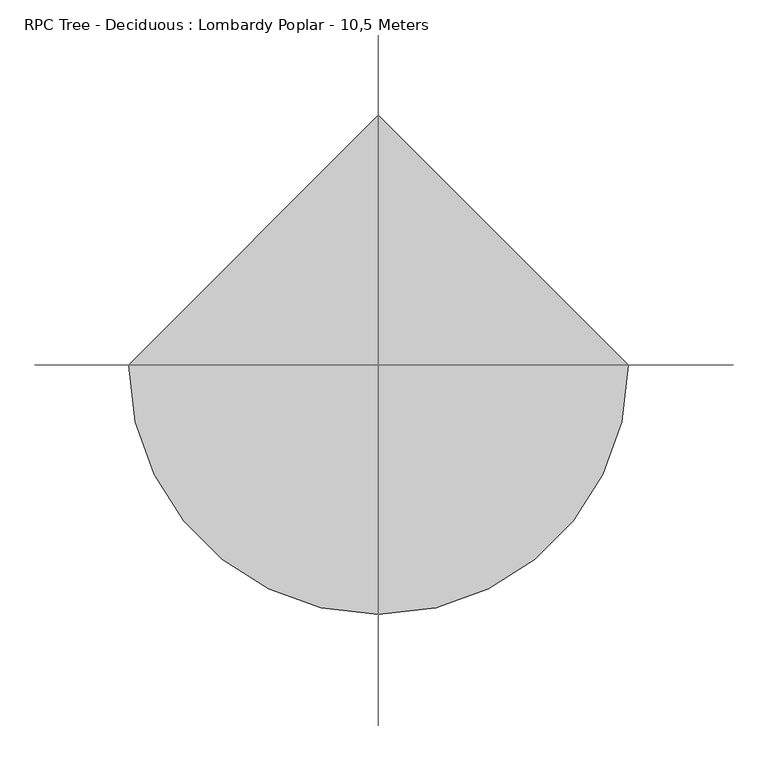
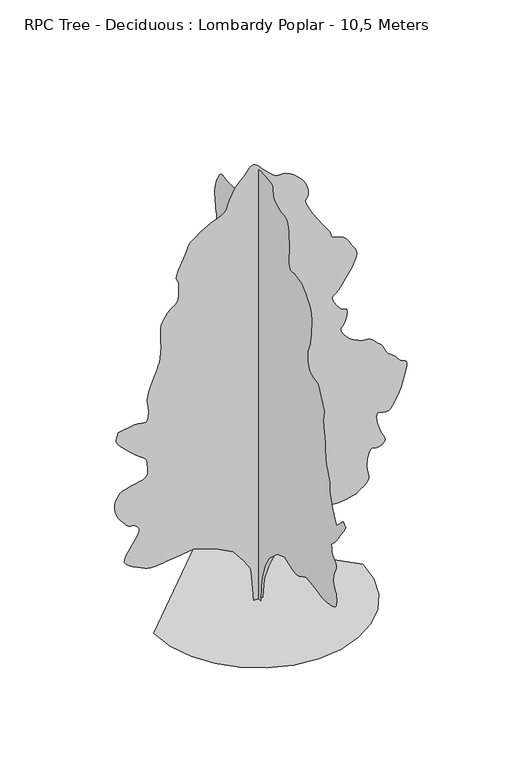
"""IFC4 building model written with IfcOpenShell, lengths in millimetres: geographic element geometry, RPC Tree - Deciduous : Lombardy Poplar - 10,5 Meters."""

from ifc_helpers import new_model, si_unit, origin, place, context, project, spatial, triangles, source, transform, mapped, element, save


def rpc_tree_deciduous_lombardy_poplar_10_5_meters_a89ac7ab(model_context):
    return source(origin(), model_context, "Body", "Tessellation", [
        triangles([(0.000835, 98.0204068, 0.0), (0.000835, -90.285641, 0.0), (0.000835, -105.9778608, 376.6125134), (0.000835, -153.0543205, 627.686832), (0.000835, -278.5908076, 972.9131435), (0.000835, -435.5130607, 1239.6805813), (0.000835, -749.3553503, 1522.1387764), (0.000835, -1047.5067736, 1631.9839611), (0.000835, -1204.4290266, 1569.2159901), (0.000835, -1271.4976799, 1546.0219116), (0.000835, -1337.4703972, 1524.884103), (0.000835, -1401.2447021, 1507.8653744), (0.000835, -1461.7267662, 1497.0241756), (0.000835, -1517.8141857, 1494.4144512), (0.000835, -1568.4131321, 1502.1013367), (0.000835, -1612.4255619, 1522.1387764), (0.000835, -1652.7761513, 1547.6668694), (0.000835, -1693.1289207, 1570.7253456), (0.000835, -1733.4793648, 1591.7252266), (0.000835, -1773.8299541, 1611.0757896), (0.000835, -1814.1805435, 1629.1948872), (0.000835, -1854.533313, 1646.4870003), (0.000835, -1894.8839024, 1663.3701267), (0.000835, -2224.4214912, 1616.2930584), (0.000835, -2281.5588467, 1602.9339901), (0.000835, -2338.5649601, 1590.1240162), (0.000835, -2395.2867886, 1578.4122311), (0.000835, -2451.6148911, 1568.3474384), (0.000835, -2507.3739876, 1560.4768433), (0.000835, -2562.4552185, 1555.3537548), (0.000835, -2616.7271965, 1553.5227619), (0.000835, -2679.8143341, 1555.5812119), (0.000835, -2756.355011, 1562.3078362), (0.000835, -2838.6485344, 1574.5227882), (0.000835, -2919.0389763, 1593.0508724), (0.000835, -2989.804715, 1618.7167477), (0.000835, -3043.2889503, 1652.3430382), (0.000835, -3071.7918617, 1694.7541122), (0.000835, -3082.5106842, 1740.9146667), (0.000835, -3088.2638214, 1785.4280834), (0.000835, -3089.9044189, 1828.5721069), (0.000835, -3088.2638214, 1870.6157616), (0.000835, -3084.1512817, 1911.8369373), (0.000835, -3078.3763435, 1952.5068386), (0.000835, -3071.7918617, 1992.9033554), (0.000835, -3041.8669441, 2026.8970654), (0.000835, -3014.0200974, 2063.0848274), (0.000835, -2990.2639893, 2103.6650539), (0.000835, -2972.6984917, 2150.8319424), (0.000835, -2963.3795837, 2206.7901546), (0.000835, -2964.320224, 2273.7056923), (0.000835, -2977.6420853, 2353.8337955), (0.000835, -3000.9389191, 2433.1086079), (0.000835, -3027.5169479, 2498.121064), (0.000835, -3053.0014389, 2551.8677834), (0.000835, -3072.994986, 2597.3897141), (0.000835, -3083.1013458, 2637.7052765), (0.000835, -3078.9231125, 2675.8113808), (0.000835, -3056.1076447, 2714.7488297), (0.000835, -3022.704451, 2749.9676102), (0.000835, -2990.6796616, 2777.5080803), (0.000835, -2961.4108086, 2801.2205864), (0.000835, -2936.2326942, 2824.9110008), (0.000835, -2916.5673248, 2852.4517616), (0.000835, -2903.7483398, 2887.6702515), (0.000835, -2899.1765259, 2934.4391991), (0.000835, -2896.0267181, 2980.2672157), (0.000835, -2889.3111397, 3012.9483604), (0.000835, -2883.1205292, 3036.5512802), (0.000835, -2881.6110283, 3055.2106064), (0.000835, -2888.8954674, 3073.0606796), (0.000835, -2909.0640038, 3094.1919479), (0.000835, -2946.2515594, 3122.738752), (0.000835, -2998.3576813, 3169.1792313), (0.000835, -3059.542028, 3238.676152), (0.000835, -3128.2512062, 3327.3791679), (0.000835, -3202.9980972, 3431.4600243), (0.000835, -3282.2947105, 3547.0692467), (0.000835, -3364.5882339, 3670.3564888), (0.000835, -3448.4133499, 3797.4937866), (0.000835, -3354.2632828, 3891.6656548), (0.000835, -3228.7229805, 3781.8095695), (0.000835, -3103.1826782, 3640.5847595), (0.000835, -3082.9481575, 3667.75345), (0.000835, -3062.4732445, 3696.5848297), (0.000835, -3041.4076698, 3728.6971138), (0.000835, -3019.5546432, 3765.7532822), (0.000835, -2996.5856964, 3809.3939323), (0.000835, -2972.2389267, 3861.2814629), (0.000835, -2946.2515594, 3923.0343796), (0.000835, -2919.5421432, 3986.2311035), (0.000835, -2893.9265556, 4044.1778572), (0.000835, -2870.4986252, 4101.337159), (0.000835, -2850.3736908, 4162.0401398), (0.000835, -2834.6234894, 4230.7057159), (0.000835, -2824.3860329, 4311.7307121), (0.000835, -2820.7112572, 4409.4898613), (0.000835, -2813.6675011, 4508.36464), (0.000835, -2795.0956696, 4593.2176003), (0.000835, -2768.8455276, 4669.3205132), (0.000835, -2738.7456207, 4741.814344), (0.000835, -2708.6239128, 4815.9923744), (0.000835, -2682.3737709, 4896.9952789), (0.000835, -2663.8019394, 4990.1169205), (0.000835, -2652.1863693, 5074.4234024), (0.000835, -2643.8519943, 5132.3919571), (0.000835, -2638.2738464, 5174.1510361), (0.000835, -2634.8833557, 5209.8947845), (0.000835, -2633.1552635, 5249.728981), (0.000835, -2632.4989082, 5303.8477707), (0.000835, -2632.4114136, 5382.4005341), (0.000835, -2628.9334282, 5462.8351593), (0.000835, -2619.9644989, 5522.4007095), (0.000835, -2607.7146652, 5570.9849533), (0.000835, -2594.3489113, 5618.4756592), (0.000835, -2582.0990776, 5674.759433), (0.000835, -2573.1301483, 5749.681604), (0.000835, -2569.6521629, 5853.1717987), (0.000835, -2574.4428589, 5949.9467056), (0.000835, -2585.008493, 6008.5495239), (0.000835, -2595.5959282, 6044.643251), (0.000835, -2600.3863335, 6073.8682114), (0.000835, -2593.670755, 6111.886821), (0.000835, -2569.6521629, 6174.3399857), (0.000835, -2522.5771294, 6276.8680298), (0.000835, -2468.8961037, 6388.6274872), (0.000835, -2427.5961536, 6471.5770752), (0.000835, -2396.5774075, 6530.5083618), (0.000835, -2373.7837406, 6570.211171), (0.000835, -2357.1805389, 6595.5206726), (0.000835, -2344.6900223, 6611.2051804), (0.000835, -2334.2556301, 6622.0987015), (0.000835, -2270.6651802, 6632.4672546), (0.000835, -2208.8683708, 6644.651976), (0.000835, -2150.6241062, 6660.3800858), (0.000835, -2097.7391075, 6681.4671707), (0.000835, -2051.987685, 6709.7078888), (0.000835, -2015.1611538, 6746.8515518), (0.000835, -1989.0358589, 6794.714328), (0.000835, -1971.6059635, 6847.5861008), (0.000835, -1959.1174816, 6898.8387863), (0.000835, -1950.7437195, 6948.6921387), (0.000835, -1945.6665585, 6997.4734634), (0.000835, -1943.0590141, 7045.4228622), (0.000835, -1942.0965729, 7092.8042725), (0.000835, -1941.9609707, 7139.922908), (0.000835, -1968.7250347, 7187.5229095), (0.000835, -1994.6642944, 7238.1198212), (0.000835, -2018.9564163, 7294.754155), (0.000835, -2040.7789215, 7360.4443314), (0.000835, -2059.3091858, 7438.2320251), (0.000835, -2073.7203701, 7531.090892), (0.000835, -2083.1901409, 7642.0846985), (0.000835, -2092.8434761, 7755.2219788), (0.000835, -2104.6931889, 7855.4530701), (0.000835, -2113.2484806, 7947.1968887), (0.000835, -2113.0188435, 8034.806076), (0.000835, -2098.515659, 8122.6774567), (0.000835, -2064.2485645, 8215.2305283), (0.000835, -2004.7289417, 8316.8400238), (0.000835, -1935.9212231, 8412.6085968), (0.000835, -1875.0739197, 8487.2238098), (0.000835, -1818.6189354, 8544.5365906), (0.000835, -1762.9865753, 8588.4176331), (0.000835, -1704.6110687, 8622.6736816), (0.000835, -1639.9202499, 8651.176593), (0.000835, -1565.3484936, 8677.7546219), (0.000835, -1486.0648155, 8693.8768936), (0.000835, -1411.4471317, 8695.1454208), (0.000835, -1344.2406235, 8691.7549301), (0.000835, -1287.1907627, 8693.8768936), (0.000835, -1243.0427307, 8711.6170898), (0.000835, -1214.5396013, 8755.1702454), (0.000835, -1204.4290266, 8834.6857407), (0.000835, -1206.0761644, 8924.5482788), (0.000835, -1209.9196072, 8998.2013412), (0.000835, -1214.3121443, 9064.4385773), (0.000835, -1217.6043125, 9132.0542175), (0.000835, -1218.1533342, 9209.84133), (0.000835, -1214.3121443, 9306.5505432), (0.000835, -1204.4290266, 9430.9975983), (0.000835, -1190.7965012, 9557.3474442), (0.000835, -1176.0637522, 9655.9815399), (0.000835, -1159.1368784, 9729.9188873), (0.000835, -1138.9156563, 9782.1563965), (0.000835, -1114.3019697, 9815.7345795), (0.000835, -1084.1976299, 9833.6718567), (0.000835, -1047.5067736, 9838.9878113), (0.000835, -995.1249418, 9843.7340332), (0.000835, -924.3485207, 9857.8436371), (0.000835, -843.693342, 9880.9875732), (0.000835, -761.6622299, 9912.9251587), (0.000835, -686.771089, 9953.3494354), (0.000835, -627.5249233, 10002.0429749), (0.000835, -592.4353137, 10058.67789), (0.000835, -579.4875212, 10118.7904999), (0.000835, -575.3246939, 10176.4311676), (0.000835, -571.4353237, 10229.127951), (0.000835, -559.3122265, 10274.4309998), (0.000835, -530.4438214, 10309.8462799), (0.000835, -476.322997, 10332.9018494), (0.000835, -388.435956, 10341.1269287), (0.000835, -282.2964317, 10344.2988281), (0.000835, -181.0989023, 10351.0146973), (0.000835, -87.860798, 10357.1829254), (0.000835, -5.602791, 10358.6932983), (0.000835, 62.6558049, 10351.4297882), (0.000835, 113.8955098, 10331.2612518), (0.000835, 145.0968575, 10294.0518951), (0.000835, 163.8542064, 10251.7893585), (0.000835, 181.7881771, 10215.2799591), (0.000835, 201.9177442, 10178.7717224), (0.000835, 227.263381, 10136.4870941), (0.000835, 260.8436532, 10082.6961914), (0.000835, 305.6785801, 10011.6028564), (0.000835, 364.7869271, 9917.4527893), (0.000835, 430.2542974, 9817.1565857), (0.000835, 492.7029565, 9730.0502747), (0.000835, 552.9553834, 9653.9252701), (0.000835, 611.8362007, 9586.5724045), (0.000835, 670.1657799, 9525.825531), (0.000835, 728.7709963, 9469.4533905), (0.000835, 788.4743288, 9415.2909988), (0.000835, 847.2174002, 9370.5571014), (0.000835, 902.9416878, 9341.7257217), (0.000835, 956.4675631, 9325.5383377), (0.000835, 1008.6240452, 9318.6695709), (0.000835, 1060.2292528, 9317.8382263), (0.000835, 1112.1079176, 9319.7631088), (0.000835, 1165.0868786, 9321.1415131), (0.000835, 1222.1826668, 9325.95401), (0.000835, 1283.6710648, 9336.5196442), (0.000835, 1346.2553261, 9347.0852783), (0.000835, 1406.6455353, 9351.8756836), (0.000835, 1461.5450912, 9345.1598145), (0.000835, 1507.6597183, 9321.1415131), (0.000835, 1541.6993557, 9274.0664795), (0.000835, 1571.0250366, 9215.8787521), (0.000835, 1603.3692833, 9160.1414566), (0.000835, 1635.9892399, 9103.5949081), (0.000835, 1666.1373997, 9042.93582), (0.000835, 1691.0704708, 8974.8609055), (0.000835, 1708.0454521, 8896.0889694), (0.000835, 1714.3125114, 8803.2952148), (0.000835, 1712.4816639, 8707.8109268), (0.000835, 1707.3585754, 8621.6673477), (0.000835, 1699.4901604, 8542.6553101), (0.000835, 1689.4253677, 8468.5865753), (0.000835, 1677.7135826, 8397.2740677), (0.000835, 1664.9036087, 8326.5086197), (0.000835, 1651.5445404, 8254.0804825), (0.000835, 1648.6614315, 8186.2241592), (0.000835, 1663.0726158, 8128.2556046), (0.000835, 1689.0120209, 8076.608757), (0.000835, 1720.7174984, 8027.6966263), (0.000835, 1752.4231213, 7977.9746613), (0.000835, 1778.3625263, 7923.8558716), (0.000835, 1792.7737106, 7861.7747772), (0.000835, 1792.3623985, 7801.5092697), (0.000835, 1779.8718819, 7752.5314453), (0.000835, 1758.5984711, 7710.6624893), (0.000835, 1731.834407, 7671.8125351), (0.000835, 1702.8762909, 7631.869043), (0.000835, 1675.0141834, 7586.7188919), (0.000835, 1651.5445404, 7532.2286133), (0.000835, 1637.9099075, 7469.9725296), (0.000835, 1636.6301891, 7404.9602188), (0.000835, 1646.6029816, 7338.3067291), (0.000835, 1666.7322762, 7271.1073425), (0.000835, 1695.9200294, 7204.4323425), (0.000835, 1733.0703781, 7139.4200317), (0.000835, 1777.0806278, 7077.1639481), (0.000835, 1822.5105583, 7025.8885895), (0.000835, 1865.7442566, 6987.7606842), (0.000835, 1908.4288605, 6954.8824585), (0.000835, 1952.2115078, 6919.2264954), (0.000835, 1998.7396271, 6872.8950211), (0.000835, 2049.6580307, 6807.8827103), (0.000835, 2106.6160366, 6716.2487686), (0.000835, 2166.3652966, 6617.7454788), (0.000835, 2225.2964378, 6535.4522461), (0.000835, 2284.4900631, 6466.305304), (0.000835, 2345.0618019, 6407.352507), (0.000835, 2408.1054829, 6355.5085785), (0.000835, 2474.7149345, 6307.7992813), (0.000835, 2546.0053505, 6261.1620117), (0.000835, 2618.1053101, 6224.3026337), (0.000835, 2686.6394989, 6202.5150101), (0.000835, 2751.8706917, 6187.8804382), (0.000835, 2814.0828827, 6172.4151031), (0.000835, 2873.5609383, 6148.1776291), (0.000835, 2930.5670517, 6107.184201), (0.000835, 2985.3857986, 6041.4713516), (0.000835, 3036.0263123, 5961.0152161), (0.000835, 3079.2512901, 5881.9153931), (0.000835, 3113.4419357, 5805.5502869), (0.000835, 3136.8919579, 5733.3192307), (0.000835, 3148.026162, 5666.5564453), (0.000835, 3145.1388382, 5606.6845184), (0.000835, 3126.6106087, 5555.0161606), (0.000835, 3091.7856995, 5505.3819809), (0.000835, 3044.0764023, 5451.8974548), (0.000835, 2987.8577408, 5396.5101379), (0.000835, 2927.5047386, 5341.1007294), (0.000835, 2867.4360214, 5287.6167847), (0.000835, 2812.0266129, 5237.9820236), (0.000835, 2765.6957199, 5194.1009811), (0.000835, 2722.99571, 5154.485376), (0.000835, 2677.8458496, 5115.4168304), (0.000835, 2633.5052422, 5075.5169403), (0.000835, 2593.2989754, 5033.429393), (0.000835, 2560.508535, 4987.7763657), (0.000835, 2538.3927338, 4937.179454), (0.000835, 2530.2990417, 4880.2608353), (0.000835, 2526.973954, 4820.6077904), (0.000835, 2518.9677567, 4762.311058), (0.000835, 2509.2991608, 4704.8674713), (0.000835, 2501.0304794, 4647.6645676), (0.000835, 2497.1365311, 4590.1988892), (0.000835, 2500.6584091, 4531.9239578), (0.000835, 2514.6148247, 4472.2709129), (0.000835, 2536.1614746, 4414.9366219), (0.000835, 2560.1803574, 4363.377269), (0.000835, 2586.2552193, 4316.6307037), (0.000835, 2613.9706787, 4273.7118118), (0.000835, 2642.9331551, 4233.680825), (0.000835, 2672.726976, 4195.5744301), (0.000835, 2702.9143776, 4158.4307671), (0.000835, 2739.66446, 4164.2713989), (0.000835, 2774.8829498, 4164.9277542), (0.000835, 2807.0830193, 4155.127771), (0.000835, 2834.7766777, 4129.6871727), (0.000835, 2856.411113, 4083.3995911), (0.000835, 2870.4986252, 4011.0153465), (0.000835, 2875.5297134, 3907.3498718), (0.000835, 2875.5297134, 3389.5038643), (0.000835, 2881.3046516, 3236.1603172), (0.000835, 2894.7579002, 3109.9857513), (0.000835, 2910.1142303, 3007.4138145), (0.000835, 2921.6423058, 2924.8796082), (0.000835, 2923.5671883, 2858.8173615), (0.000835, 2910.1142303, 2805.639212), (0.000835, 2875.5297134, 2761.8235725), (0.000835, 2826.1580177, 2737.1707169), (0.000835, 2774.5986649, 2733.6488388), (0.000835, 2724.4174255, 2735.880098), (0.000835, 2679.1800705, 2728.5081642), (0.000835, 2642.4302788, 2696.1769981), (0.000835, 2617.7771324, 2623.464576), (0.000835, 2608.7646011, 2495.0584602), (0.000835, 2614.7145287, 2353.5493652), (0.000835, 2629.4363045, 2246.9089268), (0.000835, 2648.2927116, 2167.7149235), (0.000835, 2666.6020592, 2108.5606853), (0.000835, 2679.6832375, 2062.0325661), (0.000835, 2682.8769379, 2020.7195354), (0.000835, 2671.5238518, 1977.2124527), (0.000835, 2660.367556, 1941.3441479), (0.000835, 2661.0021103, 1922.7699909), (0.000835, 2664.130117, 1913.8035324), (0.000835, 2660.367556, 1906.7575962), (0.000835, 2640.4176109, 1893.9476223), (0.000835, 2594.9395729, 1867.6867252), (0.000835, 2514.6148247, 1820.2901997), (0.000835, 2430.6586121, 1767.9521152), (0.000835, 2371.4212395, 1730.1631428), (0.000835, 2323.143227, 1704.1779556), (0.000835, 2272.1307884, 1687.2510818), (0.000835, 2204.6683365, 1676.6373402), (0.000835, 2106.983456, 1669.591404), (0.000835, 1965.3868664, 1663.3701267), (0.000835, 1813.6358093, 1665.3367218), (0.000835, 1690.9807961, 1681.0276245), (0.000835, 1591.9308826, 1704.9566872), (0.000835, 1511.0000668, 1731.6265709), (0.000835, 1442.6955151, 1755.5534534), (0.000835, 1381.5287544, 1771.2465363), (0.000835, 1322.0091316, 1773.2131313), (0.000835, 1257.8214798, 1764.6578396), (0.000835, 1187.0471661, 1752.8103069), (0.000835, 1110.7822718, 1738.2154129), (0.000835, 1030.124913, 1721.4263214), (0.000835, 946.175386, 1702.987912), (0.000835, 860.0273741, 1683.4534939), (0.000835, 772.7834261, 1663.3701267), (0.000835, 458.9389564, 1412.293737), (0.000835, 270.6348797, 1004.2993092), (0.000835, 145.0968575, 517.8416837), (103.4994238, 0.0004594, 0.0073501), (-100.4981807, 0.0004594, 0.0073501), (-147.5746405, 0.0004176, 564.9253286), (-178.9593163, 0.0004176, 784.6156254), (-335.8813514, 0.0003967, 1035.6899076), (-571.2625145, 0.0003759, 1333.8412582), (-979.2590498, 0.000355, 1553.5316277), (-1481.4098671, 0.000355, 1710.4517006), (-1889.4041496, 0.000355, 1663.376667), (-2124.7876019, 0.000355, 1631.9926815), (-2182.1567745, 0.000355, 1623.8027744), (-2245.5745605, 0.000355, 1614.5145332), (-2313.3650448, 0.000355, 1606.8759007), (-2383.9117561, 0.000355, 1603.6274071), (-2455.5524414, 0.000355, 1607.5168499), (-2526.646067, 0.000355, 1621.287085), (-2595.5520355, 0.000355, 1647.6835842), (-2673.470826, 0.000355, 1684.1929836), (-2765.3675423, 0.000355, 1726.4640953), (-2860.3047707, 0.000355, 1774.5037502), (-2947.2796944, 0.000355, 1828.3052628), (-3015.3107162, 0.0003341, 1887.8706676), (-3053.4171112, 0.0003341, 1953.2002556), (-3050.6169914, 0.0003341, 2024.2962067), (-3010.1264397, 0.0003341, 2107.6069645), (-2949.6202492, 0.0003341, 2204.6465355), (-2879.7515488, 0.0003132, 2307.9838326), (-2811.2612526, 0.0003132, 2410.2492474), (-2754.8455101, 0.0003132, 2503.9834969), (-2721.2237251, 0.0002923, 2581.792701), (-2721.0926285, 0.0002923, 2636.2832703), (-2741.2611649, 0.0002923, 2672.5301857), (-2761.4299919, 0.0002923, 2701.3394737), (-2781.62062, 0.0002923, 2724.0017532), (-2801.7891563, 0.0002923, 2741.6986382), (-2821.9579834, 0.0002923, 2755.6986557), (-2842.1486115, 0.0002923, 2767.2267311), (-2862.3174385, 0.0002923, 2777.5298813), (-2882.6391632, 0.0002923, 2774.4893692), (-2903.7704315, 0.0002923, 2773.5487289), (-2926.5422974, 0.0002923, 2776.6988274), (-2951.8079063, 0.0002923, 2786.0392456), (-2980.3547104, 0.0002923, 2803.6050339), (-3013.0140541, 0.0002923, 2831.45159), (-3050.6169914, 0.0002923, 2871.6796577), (-3094.9137062, 0.0002923, 2924.2889465), (-3143.5857353, 0.0002715, 2987.0484879), (-3191.4479301, 0.0002715, 3058.6013878), (-3233.2511925, 0.0002715, 3137.5701141), (-3263.8103737, 0.0002715, 3222.575972), (-3277.9196869, 0.0002506, 3312.2417198), (-3270.3073608, 0.0002506, 3405.210173), (-3248.038662, 0.0002506, 3489.2974823), (-3220.8042778, 0.0002506, 3555.272525), (-3187.5542725, 0.0002506, 3606.1316299), (-3147.1512154, 0.0002297, 3644.9379822), (-3098.5230789, 0.0002297, 3674.6661095), (-3040.5545242, 0.0002297, 3698.3783249), (-2972.173233, 0.0002297, 3719.0503189), (-2890.9517372, 0.0002297, 3736.2440369), (-2800.9799034, 0.0002297, 3750.9876137), (-2710.7019836, 0.0002297, 3768.4659073), (-2628.6706535, 0.0002297, 3793.9065056), (-2563.3958588, 0.0002297, 3832.5157768), (-2523.3645813, 0.0002297, 3889.5218903), (-2517.0864761, 0.0002297, 3970.1312141), (-2526.4710777, 0.0002088, 4054.3060181), (-2530.6272194, 0.0002088, 4120.9153244), (-2533.9741081, 0.0002088, 4173.5246132), (-2540.8864769, 0.0002088, 4215.6993645), (-2555.73964, 0.0002088, 4251.0274406), (-2582.9740242, 0.0002088, 4283.0525208), (-2626.9425613, 0.0002088, 4315.3618858), (-2700.3549408, 0.0001879, 4368.1461639), (-2803.1672699, 0.0001879, 4451.4021286), (-2920.5045845, 0.0001879, 4553.3395111), (-3037.5794151, 0.0001879, 4662.1238594), (-3139.5606903, 0.000167, 4765.9861244), (-3211.6167572, 0.000167, 4853.0921448), (-3238.938636, 0.000167, 4911.6513611), (-3237.5605225, 0.000167, 4949.7141541), (-3233.7104668, 0.000167, 4983.663826), (-3227.8041412, 0.000167, 5014.1794052), (-3220.2572182, 0.0001462, 5041.9387573), (-3211.4853699, 0.0001462, 5067.6639313), (-3201.8824677, 0.0001462, 5091.9886093), (-3191.8636024, 0.0001462, 5115.6575134), (-2815.2424049, 0.0001462, 5178.4164734), (-2733.6267471, 0.0001462, 5179.7948776), (-2663.8019394, 0.0001462, 5166.341629), (-2606.0740677, 0.0001462, 5152.0576172), (-2560.6835243, 0.0001462, 5150.9634979), (-2527.9366859, 0.0001462, 5177.0386505), (-2508.0742355, 0.0001462, 5244.3043121), (-2501.4022591, 0.0001462, 5366.7166077), (-2506.980407, 0.0001253, 5492.1258133), (-2519.142746, 0.0001253, 5572.5162552), (-2531.0428917, 0.0001253, 5628.1878571), (-2535.811496, 0.0001253, 5679.4626343), (-2526.5585724, 0.0001044, 5746.6846939), (-2496.4583748, 0.0001044, 5850.1091949), (-2438.6212074, 0.0001044, 6010.1029175), (-2372.0993958, 8.35e-05, 6179.7431442), (-2319.5994026, 8.35e-05, 6308.4771469), (-2279.6995125, 8.35e-05, 6411.1365784), (-2251.0652138, 6.26e-05, 6502.5519287), (-2232.2964466, 6.26e-05, 6597.5333405), (-2222.0589901, 6.26e-05, 6710.889212), (-2218.930838, 4.18e-05, 6857.473288), (-2221.9495491, 4.18e-05, 7006.8577744), (-2227.7246326, 4.18e-05, 7124.3918793), (-2231.2901127, 2.09e-05, 7218.5855484), (-2227.7246326, 2.09e-05, 7297.9696564), (-2212.0840176, 2.09e-05, 7371.0320572), (-2179.413628, 2.09e-05, 7446.2821152), (-2124.7876019, 0.0, 7532.250705), (-2061.3785362, 0.0, 7612.1597809), (-2005.6543213, 0.0, 7668.2034531), (-1957.6168465, 0.0, 7707.2283966), (-1917.2662571, 0.0, 7736.1033783), (-1884.6003731, 0.0, 7761.6750732), (-1859.6213745, 0.0, 7790.8122482), (-1842.3270813, 0.0, 7830.3842514), (-1830.7070057, -2.09e-05, 7867.5500061), (-1822.3814964, -2.09e-05, 7891.2404205), (-1816.7989883, -2.09e-05, 7911.1031616), (-1813.4148926, -2.09e-05, 7936.7184586), (-1811.6758999, -2.09e-05, 7977.712468), (-1811.0349506, -2.09e-05, 8043.6869293), (-1810.9452759, -2.09e-05, 8144.246489), (-1819.8198795, -4.18e-05, 8239.774379), (-1839.6757896, -4.18e-05, 8297.4150467), (-1860.3541786, -4.18e-05, 8336.9428665), (-1871.6985443, -4.18e-05, 8378.1118652), (-1863.5567448, -4.18e-05, 8440.6958359), (-1825.7654469, -6.26e-05, 8544.4488052), (-1748.1749794, -6.26e-05, 8709.1457291), (-1670.3089474, -6.26e-05, 8875.5919647), (-1626.7557919, -8.35e-05, 8983.8295441), (-1599.9459457, -8.35e-05, 9052.5602325), (-1572.3134754, -8.35e-05, 9100.4009171), (-1526.2885231, -8.35e-05, 9146.0760361), (-1444.3054459, -8.35e-05, 9208.2007324), (-1308.7945313, -0.0001044, 9305.4570053), (-1155.4881186, -0.0001044, 9402.2098206), (-1029.6305391, -0.0001044, 9460.8347305), (-927.9294794, -0.0001044, 9496.9284576), (-847.0883383, -0.0001044, 9526.153418), (-783.8172003, -0.0001044, 9564.1720276), (-734.8194643, -0.0001253, 9626.6251923), (-696.800782, -0.0001253, 9729.1532364), (-654.4814175, -0.0001253, 9852.7683655), (-598.4377816, -0.0001462, 9966.7811737), (-534.1603824, -0.0001462, 10069.2435242), (-467.1376928, -0.0001462, 10158.2741364), (-402.8581135, -0.0001462, 10231.9277802), (-346.8166214, -0.0001462, 10288.2987579), (-304.4973295, -0.000167, 10325.4430023), (-271.5120609, -0.000167, 10360.3548248), (-238.5246122, -0.000167, 10404.8707123), (-203.6182945, -0.000167, 10449.3865997), (-164.8678981, -0.000167, 10484.2984222), (-120.3534368, -0.000167, 10499.9835114), (-68.1529848, -0.000167, 10486.8587311), (-6.3451398, -0.000167, 10435.2990875), (58.9854076, -0.000167, 10365.0580261), (120.4728699, -0.000167, 10301.9711792), (178.1175618, -0.0001462, 10245.4676514), (231.9183839, -0.0001462, 10195.0242188), (281.8786157, -0.0001462, 10150.049057), (327.9932427, -0.0001462, 10110.0177795), (370.2666072, -0.0001462, 10074.3839081), (411.0743271, -0.0001462, 10052.5526825), (454.62959, -0.0001462, 10047.7401855), (503.6732534, -0.0001462, 10050.0807404), (560.9506803, -0.0001462, 10049.6656494), (629.2093409, -0.0001462, 10036.6280731), (711.1922728, -0.0001462, 10001.0814056), (809.6471643, -0.0001253, 9933.1367157), (906.9557596, -0.0001253, 9847.4965942), (984.778117, -0.0001253, 9764.8748932), (1044.7549067, -0.0001253, 9684.4408493), (1088.5376266, -0.0001253, 9605.3846283), (1117.7713074, -0.0001044, 9526.8754669), (1134.1031593, -0.0001044, 9448.1035309), (1139.1825731, -0.0001044, 9368.2165466), (1128.7503611, -0.0001044, 9307.4696732), (1105.6941376, -0.0001044, 9274.1757751), (1082.3601694, -0.0001044, 9249.6319244), (1071.1054785, -8.35e-05, 9215.2444885), (1084.2829445, -8.35e-05, 9152.2884476), (1134.2410143, -8.35e-05, 9042.1259857), (1233.3346024, -6.26e-05, 8866.0762665), (1350.6828175, -6.26e-05, 8676.3111053), (1447.7180283, -4.18e-05, 8531.5647079), (1525.2647484, -4.18e-05, 8423.0428436), (1584.1434219, -4.18e-05, 8341.9739548), (1625.180888, -4.18e-05, 8279.5649734), (1649.1994801, -4.18e-05, 8227.0431793), (1657.0242931, -2.09e-05, 8175.6149231), (1673.8591667, -2.09e-05, 8133.6151611), (1718.6940754, -2.09e-05, 8108.6341278), (1783.0174747, -2.09e-05, 8090.8055649), (1858.3220352, -2.09e-05, 8070.2213562), (1936.0962124, -2.09e-05, 8036.9931519), (2007.8329674, -2.09e-05, 7981.277948), (2065.0207558, -2.09e-05, 7893.165303), (2113.9725643, 0.0, 7798.556543), (2162.650843, 0.0, 7724.2471252), (2205.0183151, 0.0, 7661.7503586), (2235.0307274, 0.0, 7602.5562973), (2246.6464428, 0.0, 7538.1346481), (2233.8277485, 2.09e-05, 7459.9975571), (2190.5590233, 2.09e-05, 7359.6350784), (2136.9849678, 2.09e-05, 7261.9195313), (2094.3922188, 2.09e-05, 7190.8041046), (2058.3861317, 2.09e-05, 7136.4667236), (2024.5761314, 4.18e-05, 7088.9760178), (1988.5720791, 4.18e-05, 7038.4668915), (1945.9793301, 4.18e-05, 6975.0515762), (1892.4054199, 4.18e-05, 6888.8638138), (1831.8336811, 4.18e-05, 6807.1170593), (1774.8296024, 6.26e-05, 6755.5579971), (1726.8841278, 6.26e-05, 6722.1112015), (1693.4854397, 6.26e-05, 6694.701828), (1680.1263714, 6.26e-05, 6661.2550323), (1692.2975761, 6.26e-05, 6609.6953888), (1735.485347, 6.26e-05, 6527.9492157), (1791.8942585, 6.26e-05, 6440.339447), (1840.8919945, 8.35e-05, 6376.5962448), (1883.7123459, 8.35e-05, 6332.7803146), (1921.5953533, 8.35e-05, 6304.8680649), (1955.7684128, 8.35e-05, 6288.8992722), (1987.4740356, 8.35e-05, 6280.8933655), (2017.9436874, 8.35e-05, 6276.8680298), (2021.1461082, 8.35e-05, 6253.0241364), (2023.3882679, 8.35e-05, 6227.4088394), (2023.7077251, 8.35e-05, 6198.2274811), (2021.1461082, 8.35e-05, 6163.6871475), (2014.7411213, 8.35e-05, 6122.0152725), (2003.5323578, 0.0001044, 6071.4183609), (1986.5597019, 0.0001044, 6010.1029175), (1961.7163055, 0.0001044, 5954.8469879), (1931.9335304, 0.0001044, 5917.6812332), (1903.7978931, 0.0001044, 5889.8782791), (1883.8960556, 0.0001044, 5862.5997116), (1878.8188946, 0.0001044, 5827.0966461), (1895.1507465, 0.0001044, 5774.574852), (1939.4824883, 0.0001253, 5696.2627716), (1999.8726974, 0.0001253, 5614.7346085), (2059.4382477, 0.0001253, 5555.1690582), (2117.3566601, 0.0001253, 5512.6222366), (2172.8053104, 0.0001253, 5482.1508408), (2224.9682602, 0.0001253, 5458.8098236), (2273.005735, 0.0001253, 5437.6785553), (2316.0994709, 0.0001253, 5413.7910599), (2358.2306202, 0.0001253, 5394.4974701), (2403.3804806, 0.0001253, 5386.1630951), (2450.7399445, 0.0001462, 5382.5104111), (2499.4552849, 0.0001462, 5377.1944565), (2548.7397766, 0.0001462, 5363.9382889), (2597.7396927, 0.0001462, 5336.3975281), (2645.6239792, 0.0001462, 5288.2725586), (2688.2582954, 0.0001462, 5239.7324982), (2723.498877, 0.0001462, 5209.3041229), (2753.5112892, 0.0001462, 5188.2164566), (2780.5049904, 0.0001462, 5167.6758499), (2806.667347, 0.0001462, 5138.8886536), (2834.2081078, 0.0001462, 5093.1042389), (2865.3140579, 0.000167, 5021.5074463), (2900.0078705, 0.000167, 4948.8392075), (2937.1515335, 0.000167, 4899.5329147), (2977.3139076, 0.000167, 4864.2048386), (3021.0420525, 0.000167, 4833.557872), (3068.904538, 0.000167, 4798.2297958), (3121.4263321, 0.000167, 4748.9237938), (3179.1542038, 0.0001879, 4676.2767746), (3238.1290924, 0.0001879, 4611.7676308), (3291.6136185, 0.0001879, 4581.0113686), (3336.0414299, 0.0001879, 4565.9178131), (3367.825827, 0.0001879, 4548.3520248), (3383.4446411, 0.0001879, 4510.2020279), (3379.2664078, 0.0001879, 4433.3334641), (3351.7695396, 0.0002088, 4299.6555771), (3306.9914589, 0.0002088, 4135.0903313), (3254.7760414, 0.0002297, 3980.4122726), (3197.3760567, 0.0002297, 3839.7345222), (3136.9355598, 0.0002297, 3717.1690384), (3075.6858101, 0.0002506, 3616.8504524), (3015.7920822, 0.0002506, 3542.8692123), (2959.4641251, 0.0002506, 3499.3599495), (2901.1016991, 0.0002506, 3489.7131546), (2838.3203568, 0.0002506, 3502.8382256), (2778.2955322, 0.0002506, 3521.1911751), (2728.1581856, 0.0002506, 3527.1849953), (2695.0395676, 0.0002506, 3503.2538979), (2686.0706383, 0.0002506, 3431.8320946), (2708.4050308, 0.0002506, 3295.3540878), (2753.1831116, 0.0002715, 3142.1855301), (2801.548764, 0.0002715, 3026.9044853), (2845.5173012, 0.0002715, 2941.2640732), (2877.126709, 0.0002923, 2877.0174133), (2888.4141014, 0.0002923, 2825.9612274), (2871.4610664, 0.0002923, 2779.8486351), (2818.239315, 0.0002923, 2730.4330467), (2748.9394753, 0.0002923, 2699.2832039), (2688.4111931, 0.0002923, 2700.2456451), (2635.845797, 0.0002923, 2713.5675064), (2590.4113609, 0.0002923, 2719.4738319), (2551.2989227, 0.0002923, 2698.1893753), (2517.6771378, 0.0002923, 2629.9833641), (2488.7146614, 0.0003132, 2495.0584602), (2476.945903, 0.0003132, 2341.7588058), (2486.8772736, 0.0003341, 2225.4933735), (2505.5804924, 0.0003341, 2137.2519573), (2520.1929726, 0.0003341, 2067.9410717), (2517.7646324, 0.0003341, 2008.5133038), (2485.4116653, 0.0003341, 1949.90816), (2410.2492474, 0.0003341, 1883.0670364), (2326.6649597, 0.000355, 1821.5786385), (2269.9870239, 0.000355, 1781.2280491), (2228.6651276, 0.000355, 1756.2490505), (2191.1934322, 0.000355, 1740.8774597), (2146.0412464, 0.000355, 1729.3472042), (2081.6719196, 0.000355, 1715.8962811), (1986.5597019, 0.000355, 1694.7607979), (1879.2759888, 0.000355, 1676.6898079), (1783.5228218, 0.000355, 1673.1657497), (1695.4542149, 0.000355, 1679.5269894), (1611.228978, 0.000355, 1691.1009922), (1527.0037411, 0.000355, 1703.2240894), (1438.9351341, 0.000355, 1711.2304321), (1343.1819672, 0.000355, 1710.4517006), (1252.8251278, 0.000355, 1701.8964088), (1181.4100101, 0.000355, 1690.0488762), (1125.7775774, 0.000355, 1675.4538368), (1082.7735889, 0.000355, 1658.6648907), (1049.239226, 0.000355, 1640.2264812), (1022.0180677, 0.000355, 1620.6920631), (997.9534029, 0.000355, 1600.608696), (997.6777657, 0.0003759, 1516.8406986), (995.7571707, 0.0003759, 1434.8555866), (990.5399746, 0.0003759, 1356.442495), (980.3856525, 0.0003759, 1283.3800941), (963.6403084, 0.0003759, 1217.453377), (938.6613098, 0.0003967, 1160.449371), (903.7991936, 0.0003967, 1114.1510342), (864.8201775, 0.0003967, 1077.9173447), (828.3130308, 0.0003967, 1049.0949034), (793.862154, 0.0003967, 1026.4499193), (761.0606678, 0.0003967, 1008.744314), (729.4928999, 0.0003967, 994.7443691), (698.749791, 0.0003967, 983.2140409), (668.4179941, 0.0003967, 972.9218639), (401.6505927, 0.0003967, 972.9218639), (244.7283578, 0.0004176, 737.5384844), (134.8843177, 0.0004385, 439.3870975), (-2382.1836639, 0.0, 0.0086864), (-2319.2056767, -545.8416098, 0.0086864), (-2139.8571762, -1047.1086147, 0.0086864), (-1858.4795837, -1489.442371, 0.0086864), (-1489.442371, -1858.4795837, 0.0086864), (-1047.1086147, -2139.8571762, 0.0086864), (-545.8416098, -2319.2056767, 0.0086864), (0.0001041, -2382.1836639, 0.0086864), (545.8416098, -2319.2056767, 0.0086864), (1047.1086147, -2139.8571762, 0.0086864), (1489.442371, -1858.4795837, 0.0086864), (1858.4795837, -1489.442371, 0.0086864), (2139.8571762, -1047.1086147, 0.0086864), (2319.2056767, -545.8416098, 0.0086864), (2382.1836639, 0.0002088, 0.0086864), (-0.0003124, 2382.1836639, 0.0086864)], [[1, 2, 3], [388, 1, 3], [388, 3, 4], [387, 388, 4], [387, 4, 5], [80, 81, 82], [79, 80, 82], [79, 82, 83], [78, 79, 83], [77, 78, 83], [387, 5, 6], [386, 387, 6], [76, 77, 83], [386, 6, 7], [359, 360, 361], [359, 361, 362], [385, 386, 7], [75, 76, 83], [75, 83, 84], [75, 84, 85], [74, 75, 85], [73, 74, 85], [73, 85, 86], [72, 73, 86], [72, 86, 87], [358, 359, 362], [358, 362, 363], [72, 87, 88], [131, 132, 133], [71, 72, 88], [130, 131, 133], [129, 130, 133], [71, 88, 89], [44, 45, 46], [128, 129, 133], [71, 89, 90], [207, 208, 209], [207, 209, 210], [206, 207, 210], [205, 206, 210], [205, 210, 211], [205, 211, 212], [204, 205, 212], [204, 212, 213], [203, 204, 213], [203, 213, 214], [203, 214, 215], [202, 203, 215], [202, 215, 216], [201, 202, 216], [200, 201, 216], [199, 200, 216], [198, 199, 216], [197, 198, 216], [196, 197, 216], [195, 196, 216], [194, 195, 216], [194, 216, 217], [193, 194, 217], [193, 217, 218], [193, 218, 219], [192, 193, 219], [192, 219, 220], [191, 192, 220], [191, 220, 221], [191, 221, 222], [190, 191, 222], [190, 222, 223], [128, 133, 134], [127, 128, 134], [71, 90, 91], [235, 236, 237], [234, 235, 237], [233, 234, 237], [233, 237, 238], [232, 233, 238], [232, 238, 239], [231, 232, 239], [231, 239, 240], [231, 240, 241], [231, 241, 242], [230, 231, 242], [230, 242, 243], [230, 243, 244], [230, 244, 245], [229, 230, 245], [229, 245, 246], [228, 229, 246], [228, 246, 247], [227, 228, 247], [227, 247, 248], [227, 248, 249], [226, 227, 249], [226, 249, 250], [226, 250, 251], [225, 226, 251], [225, 251, 252], [224, 225, 252], [71, 91, 92], [189, 190, 223], [330, 331, 332], [330, 332, 333], [329, 330, 333], [329, 333, 334], [328, 329, 334], [328, 334, 335], [328, 335, 336], [327, 328, 336], [385, 7, 8], [342, 343, 344], [341, 342, 344], [341, 344, 345], [340, 341, 345], [340, 345, 346], [339, 340, 346], [339, 346, 347], [338, 339, 347], [337, 338, 347], [337, 347, 348], [336, 337, 348], [327, 336, 348], [326, 327, 348], [325, 326, 348], [324, 325, 348], [323, 324, 348], [126, 127, 134], [126, 134, 135], [357, 358, 363], [357, 363, 364], [356, 357, 364], [355, 356, 364], [354, 355, 364], [353, 354, 364], [353, 364, 365], [352, 353, 365], [352, 365, 366], [352, 366, 367], [352, 367, 368], [352, 368, 369], [352, 369, 370], [351, 352, 370], [351, 370, 371], [351, 371, 372], [350, 351, 372], [350, 372, 373], [350, 373, 374], [350, 374, 375], [350, 375, 376], [349, 350, 376], [349, 376, 377], [348, 349, 377], [323, 348, 377], [323, 377, 378], [323, 378, 379], [323, 379, 380], [322, 323, 380], [322, 380, 381], [322, 381, 382], [321, 322, 382], [321, 382, 383], [321, 383, 384], [321, 384, 385], [321, 385, 8], [320, 321, 8], [319, 320, 8], [318, 319, 8], [317, 318, 8], [316, 317, 8], [315, 316, 8], [314, 315, 8], [313, 314, 8], [57, 58, 59], [56, 57, 59], [56, 59, 60], [55, 56, 60], [55, 60, 61], [54, 55, 61], [54, 61, 62], [53, 54, 62], [53, 62, 63], [53, 63, 64], [52, 53, 64], [36, 37, 38], [36, 38, 39], [35, 36, 39], [35, 39, 40], [35, 40, 41], [34, 35, 41], [34, 41, 42], [34, 42, 43], [33, 34, 43], [33, 43, 44], [33, 44, 46], [33, 46, 47], [32, 33, 47], [32, 47, 48], [31, 32, 48], [30, 31, 48], [30, 48, 49], [29, 30, 49], [28, 29, 49], [27, 28, 49], [26, 27, 49], [26, 49, 50], [25, 26, 50], [24, 25, 50], [24, 50, 51], [23, 24, 51], [23, 51, 52], [23, 52, 64], [23, 64, 65], [23, 65, 66], [23, 66, 67], [23, 67, 68], [23, 68, 69], [23, 69, 70], [22, 23, 70], [21, 22, 70], [20, 21, 70], [19, 20, 70], [18, 19, 70], [125, 126, 135], [125, 135, 136], [189, 223, 224], [189, 224, 252], [189, 252, 253], [188, 189, 253], [187, 188, 253], [186, 187, 253], [185, 186, 253], [184, 185, 253], [183, 184, 253], [182, 183, 253], [181, 182, 253], [180, 181, 253], [179, 180, 253], [178, 179, 253], [177, 178, 253], [176, 177, 253], [175, 176, 253], [174, 175, 253], [173, 174, 253], [172, 173, 253], [172, 253, 254], [172, 254, 255], [172, 255, 256], [172, 256, 257], [172, 257, 258], [172, 258, 259], [172, 259, 260], [172, 260, 261], [172, 261, 262], [172, 262, 263], [172, 263, 264], [172, 264, 265], [172, 265, 266], [172, 266, 267], [172, 267, 268], [172, 268, 269], [171, 172, 269], [171, 269, 270], [171, 270, 271], [170, 171, 271], [170, 271, 272], [169, 170, 272], [168, 169, 272], [167, 168, 272], [166, 167, 272], [165, 166, 272], [164, 165, 272], [163, 164, 272], [162, 163, 272], [161, 162, 272], [160, 161, 272], [159, 160, 272], [158, 159, 272], [157, 158, 272], [156, 157, 272], [155, 156, 272], [154, 155, 272], [153, 154, 272], [152, 153, 272], [151, 152, 272], [150, 151, 272], [149, 150, 272], [148, 149, 272], [147, 148, 272], [146, 147, 272], [145, 146, 272], [144, 145, 272], [143, 144, 272], [142, 143, 272], [141, 142, 272], [140, 141, 272], [139, 140, 272], [138, 139, 272], [138, 272, 273], [138, 273, 274], [137, 138, 274], [137, 274, 275], [137, 275, 276], [137, 276, 277], [137, 277, 278], [137, 278, 279], [137, 279, 280], [137, 280, 281], [137, 281, 282], [137, 282, 283], [136, 137, 283], [125, 136, 283], [124, 125, 283], [123, 124, 283], [122, 123, 283], [121, 122, 283], [120, 121, 283], [119, 120, 283], [118, 119, 283], [117, 118, 283], [116, 117, 283], [115, 116, 283], [114, 115, 283], [113, 114, 283], [112, 113, 283], [111, 112, 283], [110, 111, 283], [109, 110, 283], [108, 109, 283], [107, 108, 283], [106, 107, 283], [105, 106, 283], [104, 105, 283], [103, 104, 283], [103, 283, 284], [102, 103, 284], [102, 284, 285], [101, 102, 285], [100, 101, 285], [99, 100, 285], [98, 99, 285], [97, 98, 285], [96, 97, 285], [95, 96, 285], [94, 95, 285], [94, 285, 286], [93, 94, 286], [93, 286, 287], [92, 93, 287], [71, 92, 287], [70, 71, 287], [18, 70, 287], [17, 18, 287], [16, 17, 287], [15, 16, 287], [14, 15, 287], [13, 14, 287], [12, 13, 287], [11, 12, 287], [10, 11, 287], [9, 10, 287], [8, 9, 287], [313, 8, 287], [312, 313, 287], [311, 312, 287], [310, 311, 287], [309, 310, 287], [308, 309, 287], [307, 308, 287], [306, 307, 287], [305, 306, 287], [305, 287, 288], [304, 305, 288], [304, 288, 289], [303, 304, 289], [303, 289, 290], [303, 290, 291], [303, 291, 292], [303, 292, 293], [303, 293, 294], [303, 294, 295], [302, 303, 295], [302, 295, 296], [302, 296, 297], [301, 302, 297], [301, 297, 298], [300, 301, 298], [300, 298, 299], [745, 389, 390], [745, 390, 391], [744, 745, 391], [744, 391, 392], [622, 623, 624], [743, 744, 392], [743, 392, 393], [474, 475, 476], [473, 474, 476], [472, 473, 476], [471, 472, 476], [470, 471, 476], [469, 470, 476], [468, 469, 476], [467, 468, 476], [466, 467, 476], [465, 466, 476], [464, 465, 476], [464, 476, 477], [464, 477, 478], [464, 478, 479], [463, 464, 479], [463, 479, 480], [462, 463, 480], [461, 462, 480], [460, 461, 480], [460, 480, 481], [743, 393, 394], [622, 624, 625], [459, 460, 481], [621, 622, 625], [621, 625, 626], [621, 626, 627], [668, 669, 670], [668, 670, 671], [667, 668, 671], [667, 671, 672], [666, 667, 672], [620, 621, 627], [620, 627, 628], [620, 628, 629], [666, 672, 673], [620, 629, 630], [619, 620, 630], [619, 630, 631], [619, 631, 632], [619, 632, 633], [618, 619, 633], [618, 633, 634], [665, 666, 673], [550, 551, 552], [550, 552, 553], [549, 550, 553], [548, 549, 553], [548, 553, 554], [547, 548, 554], [547, 554, 555], [546, 547, 555], [545, 546, 555], [545, 555, 556], [544, 545, 556], [543, 544, 556], [543, 556, 557], [542, 543, 557], [542, 557, 558], [541, 542, 558], [541, 558, 559], [540, 541, 559], [539, 540, 559], [539, 559, 560], [538, 539, 560], [538, 560, 561], [617, 618, 634], [690, 691, 692], [690, 692, 693], [689, 690, 693], [689, 693, 694], [689, 694, 695], [689, 695, 696], [688, 689, 696], [688, 696, 697], [687, 688, 697], [687, 697, 698], [686, 687, 698], [410, 411, 412], [410, 412, 413], [409, 410, 413], [408, 409, 413], [408, 413, 414], [407, 408, 414], [407, 414, 415], [406, 407, 415], [406, 415, 416], [405, 406, 416], [404, 405, 416], [403, 404, 416], [402, 403, 416], [401, 402, 416], [400, 401, 416], [400, 416, 417], [399, 400, 417], [398, 399, 417], [397, 398, 417], [397, 417, 418], [396, 397, 418], [396, 418, 419], [665, 673, 674], [664, 665, 674], [663, 664, 674], [662, 663, 674], [661, 662, 674], [661, 674, 675], [661, 675, 676], [660, 661, 676], [660, 676, 677], [660, 677, 678], [660, 678, 679], [660, 679, 680], [660, 680, 681], [660, 681, 682], [660, 682, 683], [659, 660, 683], [659, 683, 684], [658, 659, 684], [537, 538, 561], [657, 658, 684], [656, 657, 684], [655, 656, 684], [654, 655, 684], [653, 654, 684], [652, 653, 684], [651, 652, 684], [650, 651, 684], [649, 650, 684], [648, 649, 684], [647, 648, 684], [646, 647, 684], [645, 646, 684], [644, 645, 684], [643, 644, 684], [642, 643, 684], [641, 642, 684], [640, 641, 684], [639, 640, 684], [537, 561, 562], [638, 639, 684], [704, 705, 706], [704, 706, 707], [703, 704, 707], [703, 707, 708], [702, 703, 708], [702, 708, 709], [702, 709, 710], [702, 710, 711], [702, 711, 712], [702, 712, 713], [701, 702, 713], [701, 713, 714], [701, 714, 715], [701, 715, 716], [701, 716, 717], [701, 717, 718], [700, 701, 718], [700, 718, 719], [700, 719, 720], [699, 700, 720], [699, 720, 721], [699, 721, 722], [698, 699, 722], [686, 698, 722], [685, 686, 722], [685, 722, 723], [685, 723, 724], [684, 685, 724], [638, 684, 724], [638, 724, 725], [637, 638, 725], [637, 725, 726], [637, 726, 727], [636, 637, 727], [636, 727, 728], [635, 636, 728], [574, 575, 576], [458, 459, 481], [396, 419, 420], [574, 576, 577], [573, 574, 577], [572, 573, 577], [571, 572, 577], [570, 571, 577], [569, 570, 577], [568, 569, 577], [568, 577, 578], [567, 568, 578], [566, 567, 578], [565, 566, 578], [564, 565, 578], [563, 564, 578], [562, 563, 578], [537, 562, 578], [537, 578, 579], [537, 579, 580], [536, 537, 580], [536, 580, 581], [536, 581, 582], [535, 536, 582], [534, 535, 582], [533, 534, 582], [532, 533, 582], [531, 532, 582], [530, 531, 582], [529, 530, 582], [528, 529, 582], [527, 528, 582], [526, 527, 582], [525, 526, 582], [524, 525, 582], [523, 524, 582], [522, 523, 582], [521, 522, 582], [520, 521, 582], [519, 520, 582], [518, 519, 582], [517, 518, 582], [516, 517, 582], [515, 516, 582], [515, 582, 583], [514, 515, 583], [514, 583, 584], [513, 514, 584], [513, 584, 585], [513, 585, 586], [513, 586, 587], [513, 587, 588], [513, 588, 589], [512, 513, 589], [511, 512, 589], [510, 511, 589], [509, 510, 589], [509, 589, 590], [508, 509, 590], [507, 508, 590], [506, 507, 590], [505, 506, 590], [504, 505, 590], [503, 504, 590], [502, 503, 590], [501, 502, 590], [500, 501, 590], [499, 500, 590], [498, 499, 590], [497, 498, 590], [496, 497, 590], [495, 496, 590], [494, 495, 590], [493, 494, 590], [492, 493, 590], [491, 492, 590], [490, 491, 590], [489, 490, 590], [488, 489, 590], [487, 488, 590], [486, 487, 590], [485, 486, 590], [484, 485, 590], [483, 484, 590], [482, 483, 590], [482, 590, 591], [482, 591, 592], [482, 592, 593], [482, 593, 594], [482, 594, 595], [482, 595, 596], [482, 596, 597], [482, 597, 598], [482, 598, 599], [482, 599, 600], [482, 600, 601], [482, 601, 602], [482, 602, 603], [482, 603, 604], [482, 604, 605], [482, 605, 606], [482, 606, 607], [482, 607, 608], [482, 608, 609], [482, 609, 610], [482, 610, 611], [482, 611, 612], [482, 612, 613], [482, 613, 614], [482, 614, 615], [482, 615, 616], [482, 616, 617], [482, 617, 634], [482, 634, 635], [482, 635, 728], [481, 482, 728], [458, 481, 728], [457, 458, 728], [456, 457, 728], [455, 456, 728], [454, 455, 728], [453, 454, 728], [452, 453, 728], [451, 452, 728], [451, 728, 729], [451, 729, 730], [451, 730, 731], [451, 731, 732], [451, 732, 733], [451, 733, 734], [451, 734, 735], [451, 735, 736], [451, 736, 737], [451, 737, 738], [451, 738, 739], [451, 739, 740], [451, 740, 741], [451, 741, 742], [451, 742, 743], [451, 743, 394], [451, 394, 395], [451, 395, 396], [451, 396, 420], [451, 420, 421], [451, 421, 422], [451, 422, 423], [450, 451, 423], [450, 423, 424], [450, 424, 425], [450, 425, 426], [449, 450, 426], [448, 449, 426], [447, 448, 426], [446, 447, 426], [445, 446, 426], [444, 445, 426], [443, 444, 426], [442, 443, 426], [441, 442, 426], [440, 441, 426], [439, 440, 426], [438, 439, 426], [437, 438, 426], [436, 437, 426], [435, 436, 426], [434, 435, 426], [433, 434, 426], [432, 433, 426], [431, 432, 426], [430, 431, 426], [430, 426, 427], [429, 430, 427], [428, 429, 427], [760, 761, 746], [759, 760, 746], [759, 746, 747], [758, 759, 747], [758, 747, 748], [758, 748, 749], [757, 758, 749], [756, 757, 749], [756, 749, 750], [756, 750, 751], [756, 751, 752], [756, 752, 753], [756, 753, 754], [756, 754, 755]], closed=False),
    ])


if __name__ == "__main__":
    model = new_model("IFC4")
    model_context = context("Model", 3, world=origin())
    ifc_project = project(units=[si_unit("LENGTHUNIT", "METRE", prefix="MILLI")], contexts=[model_context])
    site = spatial("IfcSite", under=ifc_project)
    building = spatial("IfcBuilding", under=site)
    placement = place(None, origin())
    rpc_tree_deciduous_lombardy_poplar_10_5_meters_shape = rpc_tree_deciduous_lombardy_poplar_10_5_meters_a89ac7ab(model_context)
    element("IfcGeographicElement", 1, ObjectType="RPC Tree - Deciduous : Lombardy Poplar - 10,5 Meters", at=placement, inside=building, context=model_context, shape_type="MappedRepresentation", body=[
        mapped(rpc_tree_deciduous_lombardy_poplar_10_5_meters_shape, transform((0.0, 0.0, 0.0), x_axis=(1.0, 0.0, 0.0), y_axis=(0.0, 1.0, 0.0), z_axis=(0.0, 0.0, 1.0))),
    ])
    save(model, "model.ifc")
